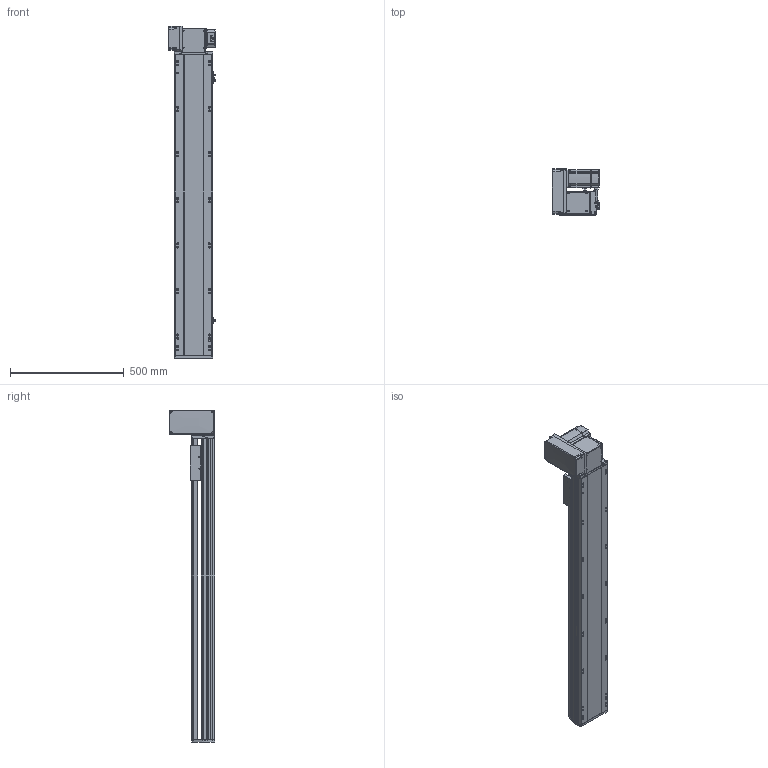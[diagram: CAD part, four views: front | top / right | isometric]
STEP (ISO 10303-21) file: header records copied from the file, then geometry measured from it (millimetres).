
FILE_DESCRIPTION (( 'STEP AP214' ), '1' );
FILE_NAME ('RTB17S-XX-1050-LW-M75-C4.STEP', '2025-12-12T01:04:12', ( '' ), ( '' ), 'SwSTEP 2.0', 'SolidWorks 2018', '' );
FILE_SCHEMA (( 'AUTOMOTIVE_DESIGN' ));
Length unit declared in the file: millimetre
Products named in the file (15): RTB17S-LW-々湍釱蚾饜-750W^RTB17S-XX-XX-LW-M75-C4; RTB22S-GY-018P^RTB17S-LW-々湍釱蚾饜-750W_RTB17S-XX-XX-LW-M75-C4; RTB17S-L-014-T20-P75--々湍釱^RTB17S-LW-々湍釱蚾饜-750W_RTB17S-XX-XX-LW-M75-C4; 750W萇儂^RTB17S-XX-XX-LW-M75-C4; RTB17S-L-004-賑釱^RTB17S-賑釱_RTB17S-XX-XX-LW-M75-C4; RTB22S-GY-017P^RTB17S-LW-々湍釱蚾饜-750W_RTB17S-XX-XX-LW-M75-C4; EE672^RTB17S-XX-XX-LW-M75-C4; RTB17S-L-001-耜醱啣^RTB17S-XX-XX-LW-M75-C4; RTB17S-XX-1050-LW-M75-C4; RTB22S-GY-005P^RTB17S-LW-々湍釱蚾饜-750W_RTB17S-XX-XX-LW-M75-C4; RTH13-BL-012覜茼え俋离^RTB17S-賑釱_RTB17S-XX-XX-LW-M75-C4; RTB17S-L-007奻裔^RTB17S-XX-XX-LW-M75-C4; RTB22S-GY-008-M75--萇儂啣^RTB17S-LW-々湍釱蚾饜-750W_RTB17S-XX-XX-LW-M75-C4; RTB17S-賑釱^RTB17S-XX-XX-LW-M75-C4; RTB17-R-011菁釱^RTB17S-XX-XX-LW-M75-C4
Assembly tree (17 placements, depth 3):
  RTB17S-XX-1050-LW-M75-C4
    RTB17-R-011菁釱^RTB17S-XX-XX-LW-M75-C4
    EE672^RTB17S-XX-XX-LW-M75-C4  x3
    RTB17S-L-001-耜醱啣^RTB17S-XX-XX-LW-M75-C4
    RTB17S-賑釱^RTB17S-XX-XX-LW-M75-C4
      RTB17S-L-004-賑釱^RTB17S-賑釱_RTB17S-XX-XX-LW-M75-C4
      RTH13-BL-012覜茼え俋离^RTB17S-賑釱_RTB17S-XX-XX-LW-M75-C4
    RTB17S-L-007奻裔^RTB17S-XX-XX-LW-M75-C4
    750W萇儂^RTB17S-XX-XX-LW-M75-C4
    RTB17S-LW-々湍釱蚾饜-750W^RTB17S-XX-XX-LW-M75-C4
      RTB17S-L-014-T20-P75--々湍釱^RTB17S-LW-々湍釱蚾饜-750W_RTB17S-XX-XX-LW-M75-C4
      RTB22S-GY-005P^RTB17S-LW-々湍釱蚾饜-750W_RTB17S-XX-XX-LW-M75-C4
      RTB22S-GY-017P^RTB17S-LW-々湍釱蚾饜-750W_RTB17S-XX-XX-LW-M75-C4  x2
      RTB22S-GY-008-M75--萇儂啣^RTB17S-LW-々湍釱蚾饜-750W_RTB17S-XX-XX-LW-M75-C4
      RTB22S-GY-018P^RTB17S-LW-々湍釱蚾饜-750W_RTB17S-XX-XX-LW-M75-C4
Bounding box: 210.4 x 201.5 x 1457.5 mm (x, y, z)
Volume: 12508454.8 mm3; surface area: 2134134.2 mm2
Topology: 17 solids, 17 shells, 2105 faces, 5836 edges, 3770 vertices
Faces by surface type: plane 972, cylinder 717, bspline 294, cone 110, sphere 8, torus 4
Entity records: 58870 total; most frequent: CARTESIAN_POINT 17300, ORIENTED_EDGE 8516, DIRECTION 7952, EDGE_CURVE 4258, AXIS2_PLACEMENT_3D 2790, VERTEX_POINT 2774, VECTOR 2372, LINE 2372
